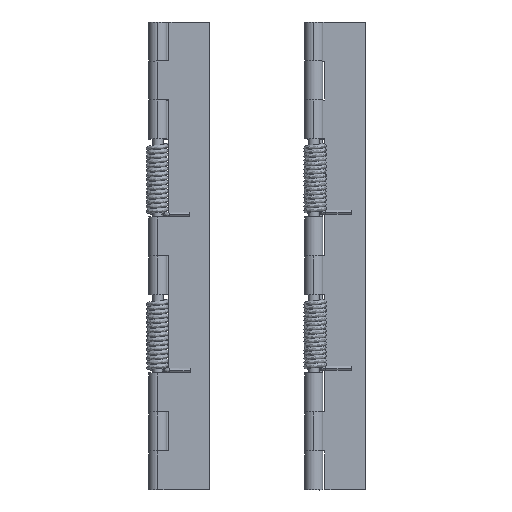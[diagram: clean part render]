
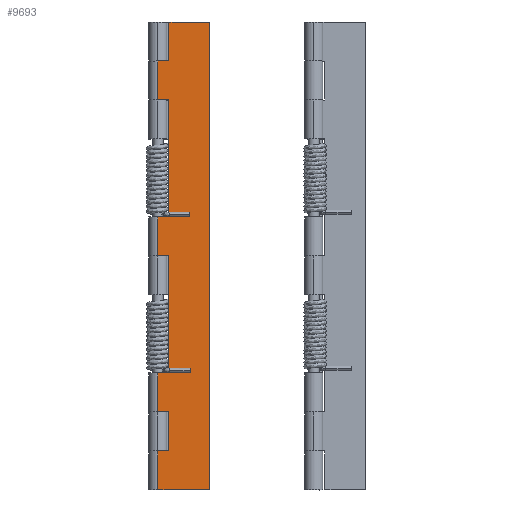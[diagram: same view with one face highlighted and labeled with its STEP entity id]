
A CAD part, top view. The second image highlights one B-rep face of the part: STEP entity #9693.
In plain terms, the highlighted planar face has unit normal (-0.001, 0, 1).
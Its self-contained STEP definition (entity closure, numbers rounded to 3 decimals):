
#9380=CARTESIAN_POINT('',(-10.348,26.503,1.621));
#9381=VERTEX_POINT('',#9380);
#9388=CARTESIAN_POINT('',(-10.348,71.503,1.621));
#9389=VERTEX_POINT('',#9388);
#9390=CARTESIAN_POINT('',(-10.348,26.503,1.621));
#9391=DIRECTION('',(0.0,1.0,0.0));
#9392=VECTOR('',#9391,45.);
#9393=LINE('',#9390,#9392);
#9394=EDGE_CURVE('',#9381,#9389,#9393,.T.);
#9517=CARTESIAN_POINT('',(5.402,161.503,1.638));
#9518=VERTEX_POINT('',#9517);
#9519=CARTESIAN_POINT('',(-10.348,161.503,1.621));
#9520=VERTEX_POINT('',#9519);
#9521=CARTESIAN_POINT('',(5.402,161.503,1.638));
#9522=DIRECTION('',(-1.,0.0,-0.001));
#9523=VECTOR('',#9522,15.75);
#9524=LINE('',#9521,#9523);
#9525=EDGE_CURVE('',#9518,#9520,#9524,.T.);
#9549=CARTESIAN_POINT('',(5.402,-18.497,1.638));
#9550=VERTEX_POINT('',#9549);
#9551=CARTESIAN_POINT('',(5.402,-18.497,1.638));
#9552=DIRECTION('',(0.0,1.0,0.0));
#9553=VECTOR('',#9552,180.);
#9554=LINE('',#9551,#9553);
#9555=EDGE_CURVE('',#9550,#9518,#9554,.T.);
#9567=CARTESIAN_POINT('',(-18.098,146.503,1.613));
#9568=DIRECTION('',(-0.001,0.,1.));
#9569=DIRECTION('',(0.0,1.0,0.0));
#9570=AXIS2_PLACEMENT_3D('',#9567,#9568,#9569);
#9571=PLANE('',#9570);
#9572=CARTESIAN_POINT('',(-10.348,86.503,1.621));
#9573=VERTEX_POINT('',#9572);
#9574=CARTESIAN_POINT('',(-10.348,131.503,1.621));
#9575=VERTEX_POINT('',#9574);
#9576=CARTESIAN_POINT('',(-10.348,86.503,1.621));
#9577=DIRECTION('',(0.0,1.0,0.0));
#9578=VECTOR('',#9577,45.0);
#9579=LINE('',#9576,#9578);
#9580=EDGE_CURVE('',#9573,#9575,#9579,.T.);
#9581=ORIENTED_EDGE('',*,*,#9580,.F.);
#9582=CARTESIAN_POINT('',(-14.598,86.503,1.617));
#9583=VERTEX_POINT('',#9582);
#9584=CARTESIAN_POINT('',(-14.598,86.503,1.617));
#9585=DIRECTION('',(1.,0.0,0.001));
#9586=VECTOR('',#9585,4.25);
#9587=LINE('',#9584,#9586);
#9588=EDGE_CURVE('',#9583,#9573,#9587,.T.);
#9589=ORIENTED_EDGE('',*,*,#9588,.F.);
#9590=CARTESIAN_POINT('',(-14.598,71.503,1.617));
#9591=VERTEX_POINT('',#9590);
#9592=CARTESIAN_POINT('',(-14.598,86.503,1.617));
#9593=DIRECTION('',(0.0,-1.0,0.0));
#9594=VECTOR('',#9593,15.0);
#9595=LINE('',#9592,#9594);
#9596=EDGE_CURVE('',#9583,#9591,#9595,.T.);
#9597=ORIENTED_EDGE('',*,*,#9596,.T.);
#9598=CARTESIAN_POINT('',(-14.598,71.503,1.617));
#9599=DIRECTION('',(1.,0.0,0.001));
#9600=VECTOR('',#9599,4.25);
#9601=LINE('',#9598,#9600);
#9602=EDGE_CURVE('',#9591,#9389,#9601,.T.);
#9603=ORIENTED_EDGE('',*,*,#9602,.T.);
#9604=ORIENTED_EDGE('',*,*,#9394,.F.);
#9605=CARTESIAN_POINT('',(-14.598,26.503,1.617));
#9606=VERTEX_POINT('',#9605);
#9607=CARTESIAN_POINT('',(-14.598,26.503,1.617));
#9608=DIRECTION('',(1.,0.0,0.001));
#9609=VECTOR('',#9608,4.25);
#9610=LINE('',#9607,#9609);
#9611=EDGE_CURVE('',#9606,#9381,#9610,.T.);
#9612=ORIENTED_EDGE('',*,*,#9611,.F.);
#9613=CARTESIAN_POINT('',(-14.598,11.503,1.617));
#9614=VERTEX_POINT('',#9613);
#9615=CARTESIAN_POINT('',(-14.598,26.503,1.617));
#9616=DIRECTION('',(0.0,-1.0,0.0));
#9617=VECTOR('',#9616,15.);
#9618=LINE('',#9615,#9617);
#9619=EDGE_CURVE('',#9606,#9614,#9618,.T.);
#9620=ORIENTED_EDGE('',*,*,#9619,.T.);
#9621=CARTESIAN_POINT('',(-10.348,11.503,1.621));
#9622=VERTEX_POINT('',#9621);
#9623=CARTESIAN_POINT('',(-14.598,11.503,1.617));
#9624=DIRECTION('',(1.,0.0,0.001));
#9625=VECTOR('',#9624,4.25);
#9626=LINE('',#9623,#9625);
#9627=EDGE_CURVE('',#9614,#9622,#9626,.T.);
#9628=ORIENTED_EDGE('',*,*,#9627,.T.);
#9629=CARTESIAN_POINT('',(-10.348,-3.497,1.621));
#9630=VERTEX_POINT('',#9629);
#9631=CARTESIAN_POINT('',(-10.348,-3.497,1.621));
#9632=DIRECTION('',(0.0,1.0,0.0));
#9633=VECTOR('',#9632,15.);
#9634=LINE('',#9631,#9633);
#9635=EDGE_CURVE('',#9630,#9622,#9634,.T.);
#9636=ORIENTED_EDGE('',*,*,#9635,.F.);
#9637=CARTESIAN_POINT('',(-14.598,-3.497,1.617));
#9638=VERTEX_POINT('',#9637);
#9639=CARTESIAN_POINT('',(-14.598,-3.497,1.617));
#9640=DIRECTION('',(1.,0.0,0.001));
#9641=VECTOR('',#9640,4.25);
#9642=LINE('',#9639,#9641);
#9643=EDGE_CURVE('',#9638,#9630,#9642,.T.);
#9644=ORIENTED_EDGE('',*,*,#9643,.F.);
#9645=CARTESIAN_POINT('',(-14.598,-18.497,1.617));
#9646=VERTEX_POINT('',#9645);
#9647=CARTESIAN_POINT('',(-14.598,-3.497,1.617));
#9648=DIRECTION('',(0.0,-1.0,0.0));
#9649=VECTOR('',#9648,15.0);
#9650=LINE('',#9647,#9649);
#9651=EDGE_CURVE('',#9638,#9646,#9650,.T.);
#9652=ORIENTED_EDGE('',*,*,#9651,.T.);
#9653=CARTESIAN_POINT('',(-14.598,-18.497,1.617));
#9654=DIRECTION('',(1.,0.0,0.001));
#9655=VECTOR('',#9654,20.0);
#9656=LINE('',#9653,#9655);
#9657=EDGE_CURVE('',#9646,#9550,#9656,.T.);
#9658=ORIENTED_EDGE('',*,*,#9657,.T.);
#9659=ORIENTED_EDGE('',*,*,#9555,.T.);
#9660=ORIENTED_EDGE('',*,*,#9525,.T.);
#9661=CARTESIAN_POINT('',(-10.348,146.503,1.621));
#9662=VERTEX_POINT('',#9661);
#9663=CARTESIAN_POINT('',(-10.348,146.503,1.621));
#9664=DIRECTION('',(0.0,1.0,0.0));
#9665=VECTOR('',#9664,15.0);
#9666=LINE('',#9663,#9665);
#9667=EDGE_CURVE('',#9662,#9520,#9666,.T.);
#9668=ORIENTED_EDGE('',*,*,#9667,.F.);
#9669=CARTESIAN_POINT('',(-14.598,146.503,1.617));
#9670=VERTEX_POINT('',#9669);
#9671=CARTESIAN_POINT('',(-14.598,146.503,1.617));
#9672=DIRECTION('',(1.,0.0,0.001));
#9673=VECTOR('',#9672,4.25);
#9674=LINE('',#9671,#9673);
#9675=EDGE_CURVE('',#9670,#9662,#9674,.T.);
#9676=ORIENTED_EDGE('',*,*,#9675,.F.);
#9677=CARTESIAN_POINT('',(-14.598,131.503,1.617));
#9678=VERTEX_POINT('',#9677);
#9679=CARTESIAN_POINT('',(-14.598,146.503,1.617));
#9680=DIRECTION('',(0.0,-1.0,0.0));
#9681=VECTOR('',#9680,15.0);
#9682=LINE('',#9679,#9681);
#9683=EDGE_CURVE('',#9670,#9678,#9682,.T.);
#9684=ORIENTED_EDGE('',*,*,#9683,.T.);
#9685=CARTESIAN_POINT('',(-14.598,131.503,1.617));
#9686=DIRECTION('',(1.,0.0,0.001));
#9687=VECTOR('',#9686,4.25);
#9688=LINE('',#9685,#9687);
#9689=EDGE_CURVE('',#9678,#9575,#9688,.T.);
#9690=ORIENTED_EDGE('',*,*,#9689,.T.);
#9691=EDGE_LOOP('',(#9581,#9589,#9597,#9603,#9604,#9612,#9620,#9628,#9636,#9644,#9652,#9658,#9659,#9660,#9668,#9676,#9684,#9690));
#9692=FACE_OUTER_BOUND('',#9691,.T.);
#9693=ADVANCED_FACE('',(#9692),#9571,.T.);
